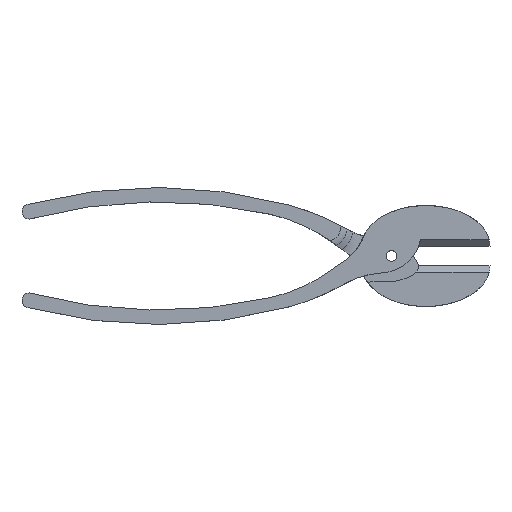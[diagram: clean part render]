
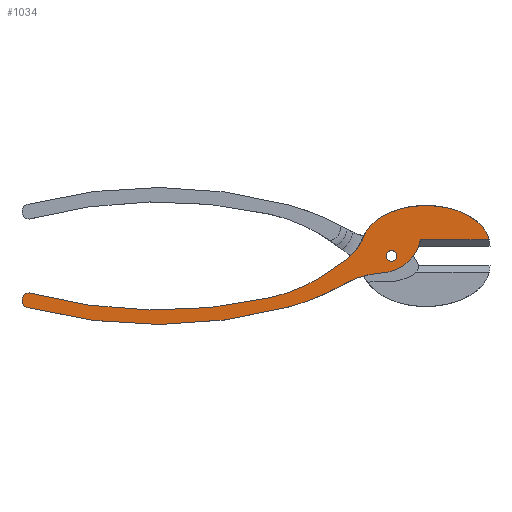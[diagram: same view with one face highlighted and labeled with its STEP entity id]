
A CAD part, top view. The second image highlights one B-rep face of the part: STEP entity #1034.
In plain terms, the highlighted planar face has unit normal (0, 0, 1).
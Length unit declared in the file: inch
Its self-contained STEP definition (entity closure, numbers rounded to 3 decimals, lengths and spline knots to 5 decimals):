
#186=CARTESIAN_POINT('',(1.92934,-0.34122,-0.00005));
#187=VERTEX_POINT('',#186);
#194=CARTESIAN_POINT('',(0.64158,-0.87569,-0.00005));
#195=VERTEX_POINT('',#194);
#196=CARTESIAN_POINT('',(-0.81844,4.46076,-0.00005));
#197=DIRECTION('',(0.,0.,1.0));
#198=DIRECTION('',(0.586,-0.81,0.));
#199=AXIS2_PLACEMENT_3D('',#196,#197,#198);
#200=CIRCLE('',#199,5.53257);
#201=EDGE_CURVE('',#195,#187,#200,.T.);
#258=CARTESIAN_POINT('',(2.81594,-0.07997,-0.00005));
#259=VERTEX_POINT('',#258);
#266=CARTESIAN_POINT('',(2.92265,-2.07712,-0.00005));
#267=DIRECTION('',(0.0,0.0,-1.0));
#268=DIRECTION('',(-0.283,0.959,0.0));
#269=AXIS2_PLACEMENT_3D('',#266,#267,#268);
#270=CIRCLE('',#269,2.0);
#271=EDGE_CURVE('',#187,#259,#270,.T.);
#541=CARTESIAN_POINT('',(2.38713,0.77587,-0.00005));
#542=VERTEX_POINT('',#541);
#550=CARTESIAN_POINT('',(5.32488,0.69864,-0.00005));
#551=VERTEX_POINT('',#550);
#552=CARTESIAN_POINT('',(3.84366,0.54864,-0.00005));
#553=DIRECTION('',(0.0,0.0,1.0));
#554=DIRECTION('',(1.0,0.0,0.0));
#555=AXIS2_PLACEMENT_3D('',#552,#553,#554);
#556=ELLIPSE('',#555,1.50001,0.95066);
#557=EDGE_CURVE('',#551,#542,#556,.T.);
#682=CARTESIAN_POINT('',(2.00344,0.25286,-0.00005));
#683=VERTEX_POINT('',#682);
#691=CARTESIAN_POINT('',(2.00344,0.25286,-0.00005));
#692=CARTESIAN_POINT('',(2.17414,0.3896,-0.00005));
#693=CARTESIAN_POINT('',(2.30794,0.57199,-0.00005));
#694=CARTESIAN_POINT('',(2.38713,0.77587,-0.00005));
#695=B_SPLINE_CURVE_WITH_KNOTS('',3,(#691,#692,#693,#694),.UNSPECIFIED.,.F.,.U.,(4,4),(0.0,1.66906),.UNSPECIFIED.);
#696=EDGE_CURVE('',#542,#683,#695,.F.);
#743=CARTESIAN_POINT('',(-5.45131,-0.90185,-0.00005));
#744=VERTEX_POINT('',#743);
#745=CARTESIAN_POINT('',(-2.45349,10.43696,-0.00005));
#746=DIRECTION('',(0.,0.,1.0));
#747=DIRECTION('',(0.264,-0.965,0.));
#748=AXIS2_PLACEMENT_3D('',#745,#746,#747);
#749=CIRCLE('',#748,11.7284);
#750=EDGE_CURVE('',#744,#195,#749,.T.);
#832=CARTESIAN_POINT('',(0.17986,-0.666,-0.00005));
#833=VERTEX_POINT('',#832);
#834=CARTESIAN_POINT('',(-5.45131,-0.55185,-0.00005));
#835=VERTEX_POINT('',#834);
#836=CARTESIAN_POINT('',(-2.40487,10.7797,-0.00005));
#837=DIRECTION('',(0.,0.,-1.0));
#838=DIRECTION('',(-0.26,-0.966,0.));
#839=AXIS2_PLACEMENT_3D('',#836,#837,#838);
#840=CIRCLE('',#839,11.73391);
#841=EDGE_CURVE('',#833,#835,#840,.T.);
#864=CARTESIAN_POINT('',(3.16147,0.31482,-0.00005));
#865=VERTEX_POINT('',#864);
#872=CARTESIAN_POINT('',(2.91147,0.31482,-0.00005));
#873=VERTEX_POINT('',#872);
#874=CARTESIAN_POINT('',(3.03647,0.31482,-0.00005));
#875=DIRECTION('',(0.0,0.0,1.0));
#876=DIRECTION('',(-1.0,0.0,0.0));
#877=AXIS2_PLACEMENT_3D('',#874,#875,#876);
#878=CIRCLE('',#877,0.125);
#879=EDGE_CURVE('',#865,#873,#878,.T.);
#896=CARTESIAN_POINT('',(1.28996,-0.23341,-0.00005));
#897=VERTEX_POINT('',#896);
#898=CARTESIAN_POINT('',(-0.70125,3.23575,-0.00005));
#899=DIRECTION('',(0.0,0.0,1.0));
#900=DIRECTION('',(0.363,-0.932,0.0));
#901=AXIS2_PLACEMENT_3D('',#898,#899,#900);
#902=CIRCLE('',#901,4.0);
#903=EDGE_CURVE('',#833,#897,#902,.T.);
#921=CARTESIAN_POINT('',(-5.62631,-0.72685,-0.00005));
#922=VERTEX_POINT('',#921);
#923=CARTESIAN_POINT('',(-5.45131,-0.72685,-0.00005));
#924=DIRECTION('',(0.0,0.0,-1.0));
#925=DIRECTION('',(0.0,1.0,0.0));
#926=AXIS2_PLACEMENT_3D('',#923,#924,#925);
#927=CIRCLE('',#926,0.175);
#928=EDGE_CURVE('',#922,#835,#927,.T.);
#949=CARTESIAN_POINT('',(3.71384,0.69864,-0.00005));
#950=VERTEX_POINT('',#949);
#958=CARTESIAN_POINT('',(2.76429,0.88663,-0.00005));
#959=DIRECTION('',(0.,0.,-1.0));
#960=DIRECTION('',(-0.349,-0.937,0.));
#961=AXIS2_PLACEMENT_3D('',#958,#959,#960);
#962=CIRCLE('',#961,0.96798);
#963=EDGE_CURVE('',#950,#259,#962,.T.);
#974=CARTESIAN_POINT('',(3.03647,0.31482,-0.00005));
#975=DIRECTION('',(0.0,0.0,1.0));
#976=DIRECTION('',(1.0,0.0,0.0));
#977=AXIS2_PLACEMENT_3D('',#974,#975,#976);
#978=CIRCLE('',#977,0.125);
#979=EDGE_CURVE('',#873,#865,#978,.T.);
#986=CARTESIAN_POINT('',(-0.15071,2.12634,-0.00005));
#987=DIRECTION('',(0.0,0.0,1.0));
#988=DIRECTION('',(1.0,0.0,0.0));
#989=AXIS2_PLACEMENT_3D('',#986,#987,#988);
#990=PLANE('',#989);
#991=ORIENTED_EDGE('',*,*,#271,.T.);
#992=ORIENTED_EDGE('',*,*,#963,.F.);
#993=CARTESIAN_POINT('',(3.71384,0.69864,-0.00005));
#994=DIRECTION('',(1.0,0.0,0.0));
#995=VECTOR('',#994,1.61104);
#996=LINE('',#993,#995);
#997=EDGE_CURVE('',#950,#551,#996,.T.);
#998=ORIENTED_EDGE('',*,*,#997,.T.);
#999=ORIENTED_EDGE('',*,*,#557,.T.);
#1000=ORIENTED_EDGE('',*,*,#696,.T.);
#1001=CARTESIAN_POINT('',(2.00344,0.25286,-0.00005));
#1002=CARTESIAN_POINT('',(1.98297,0.23647,-0.00005));
#1003=CARTESIAN_POINT('',(1.9141,0.1816,-0.00005));
#1004=CARTESIAN_POINT('',(1.77423,0.07815,-0.00005));
#1005=CARTESIAN_POINT('',(1.71555,0.03648,-0.00005));
#1006=CARTESIAN_POINT('',(1.59661,-0.04458,-0.00005));
#1007=CARTESIAN_POINT('',(1.53636,-0.08396,-0.00005));
#1008=CARTESIAN_POINT('',(1.44484,-0.1413,-0.00005));
#1009=CARTESIAN_POINT('',(1.41412,-0.16013,-0.00005));
#1010=CARTESIAN_POINT('',(1.35233,-0.19721,-0.00005));
#1011=CARTESIAN_POINT('',(1.32121,-0.21542,-0.00005));
#1012=CARTESIAN_POINT('',(1.28996,-0.23341,-0.00005));
#1013=B_SPLINE_CURVE_WITH_KNOTS('',3,(#1001,#1002,#1003,#1004,#1005,#1006,#1007,#1008,#1009,#1010,#1011,#1012),.UNSPECIFIED.,.F.,.U.,(4,2,2,2,2,4),(0.,0.19977,0.3407,0.48165,0.55219,0.62282),.UNSPECIFIED.);
#1014=EDGE_CURVE('',#683,#897,#1013,.T.);
#1015=ORIENTED_EDGE('',*,*,#1014,.T.);
#1016=ORIENTED_EDGE('',*,*,#903,.F.);
#1017=ORIENTED_EDGE('',*,*,#841,.T.);
#1018=ORIENTED_EDGE('',*,*,#928,.F.);
#1019=CARTESIAN_POINT('',(-5.45131,-0.72685,-0.00005));
#1020=DIRECTION('',(0.0,0.0,1.0));
#1021=DIRECTION('',(0.0,-1.0,0.0));
#1022=AXIS2_PLACEMENT_3D('',#1019,#1020,#1021);
#1023=CIRCLE('',#1022,0.175);
#1024=EDGE_CURVE('',#922,#744,#1023,.T.);
#1025=ORIENTED_EDGE('',*,*,#1024,.T.);
#1026=ORIENTED_EDGE('',*,*,#750,.T.);
#1027=ORIENTED_EDGE('',*,*,#201,.T.);
#1028=EDGE_LOOP('',(#991,#992,#998,#999,#1000,#1015,#1016,#1017,#1018,#1025,#1026,#1027));
#1029=FACE_OUTER_BOUND('',#1028,.T.);
#1030=ORIENTED_EDGE('',*,*,#879,.F.);
#1031=ORIENTED_EDGE('',*,*,#979,.F.);
#1032=EDGE_LOOP('',(#1030,#1031));
#1033=FACE_BOUND('',#1032,.T.);
#1034=ADVANCED_FACE('',(#1029,#1033),#990,.T.);
